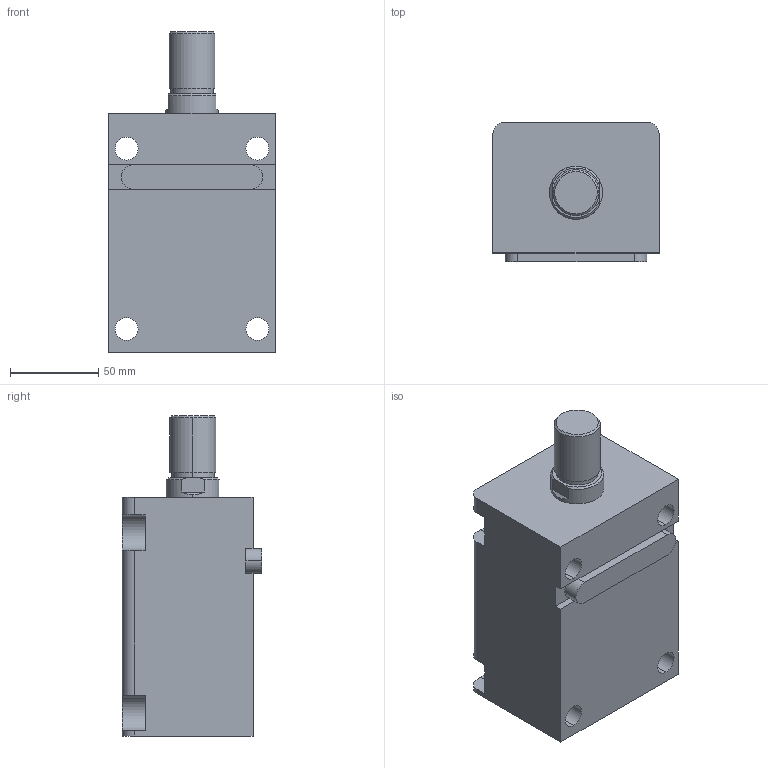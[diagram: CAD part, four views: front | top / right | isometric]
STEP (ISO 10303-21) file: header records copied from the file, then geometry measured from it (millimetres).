
FILE_DESCRIPTION (( 'STEP AP203' ), '1' );
FILE_NAME ('HTB-LA50-75W.STEP', '2019-10-09T07:12:34', ( '微软用户' ), ( '微软中国' ), 'SwSTEP 2.0', 'SolidWorks 2012', '' );
FILE_SCHEMA (( 'CONFIG_CONTROL_DESIGN' ));
Length unit declared in the file: millimetre
Products named in the file (4): HTB-LA50-75W; HTB-LA50-75掛极; HTB-LA50-瑩; HTB-LA50-75W活塞杆
Assembly tree (3 placements, depth 2):
  HTB-LA50-75W
    HTB-LA50-75掛极
    HTB-LA50-75W活塞杆
    HTB-LA50-瑩
Bounding box: 94 x 79 x 181 mm (x, y, z)
Volume: 819490.1 mm3; surface area: 115433.6 mm2
Topology: 3 solids, 3 shells, 90 faces, 219 edges, 144 vertices
Faces by surface type: plane 41, cylinder 37, cone 8, torus 4
Entity records: 3107 total; most frequent: DIRECTION 497, CARTESIAN_POINT 487, ORIENTED_EDGE 438, EDGE_CURVE 219, AXIS2_PLACEMENT_3D 190, VERTEX_POINT 144, LINE 117, VECTOR 117
